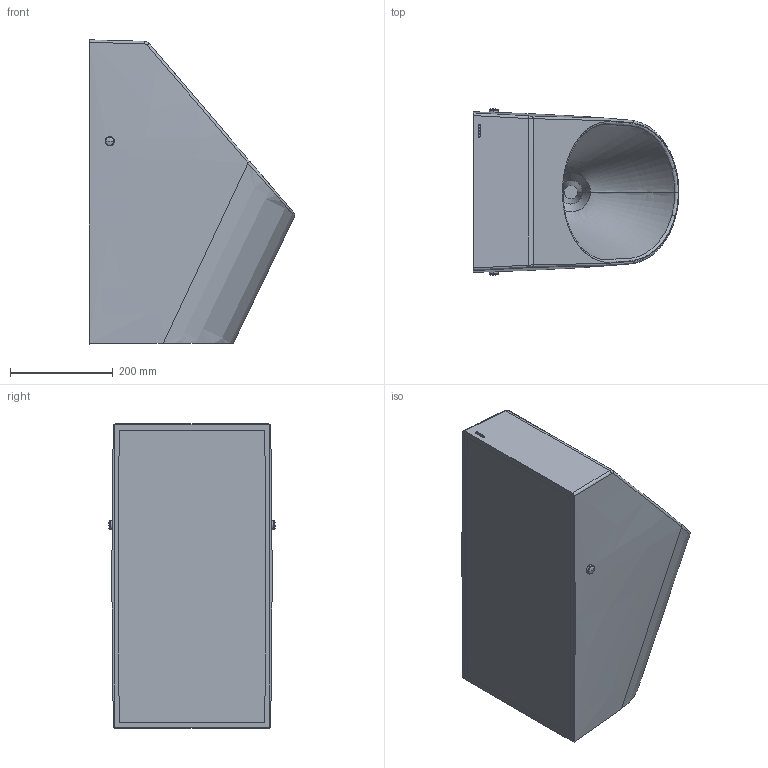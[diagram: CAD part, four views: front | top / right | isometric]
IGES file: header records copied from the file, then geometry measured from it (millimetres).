
Start section:  PTC IGES file: uwn926ebs.igs
Global section: file name: uwn926ebs.igs; native system: Creo Parametric by PTC Inc.; preprocessor: 2015290; author: Uporabnik; organization: Unknown; date: 20161202.095655; units: millimetre
Bounding box: 399.99 x 324.44 x 591.36 mm (x, y, z)
Volume: 39132322.5 mm3; surface area: 1415103.2 mm2
Topology: 1 solids, 8 shells, 143 faces, 435 edges, 312 vertices
Faces by surface type: bspline 72, extrusion 39, revolution 32
